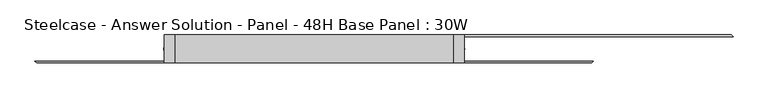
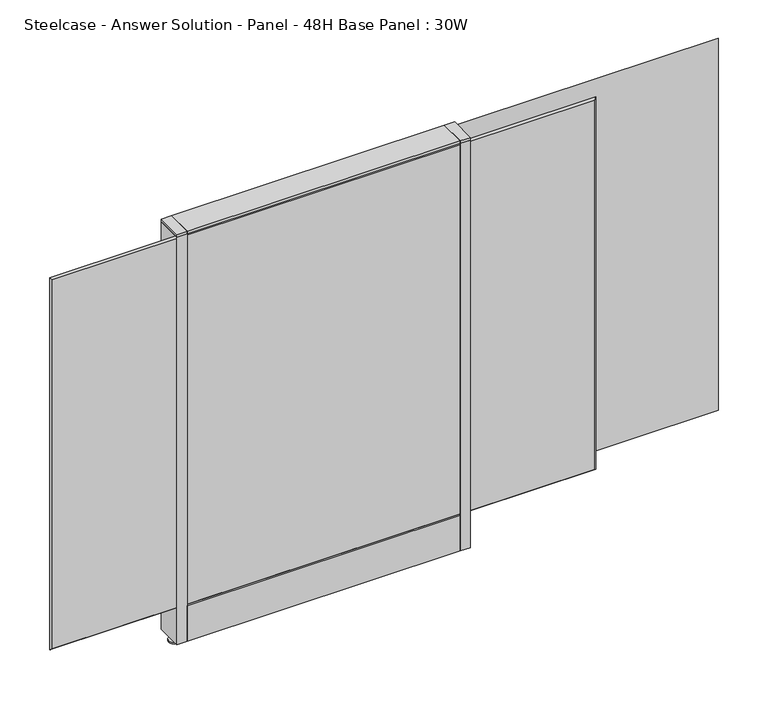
"""IFC4 building model written with IfcOpenShell, lengths in millimetres: furniture geometry, Steelcase - Answer Solution - Panel - 48H Base Panel : 30W."""

from ifc_helpers import new_model, si_unit, point, frame, frame_2d, origin, place, context, project, spatial, polyline, circle_curve, trimmed, segment, composite_curve, outline, extrude, faceted_brep, source, transform, mapped, element, save


def steelcase_answer_solution_panel_48h_base_panel_30w_b0dd2070(model_context):
    return source(origin(), model_context, "Body", "SolidModel", [
        extrude(outline(composite_curve([segment(trimmed(circle_curve(frame_2d((395.224, 0.0320214)), 5.08), [point((400.304, 0.0320214))], [point((390.144, 0.0320214))], False, "CARTESIAN"), True, "CONTINUOUS"), segment(trimmed(circle_curve(frame_2d((395.224, 0.0320214)), 5.08), [point((390.144, 0.0320214))], [point((400.304, 0.0320214))], False, "CARTESIAN"), True, "CONTINUOUS")], self_intersect=False)), frame((0.0, 0.0, 5.0799671), z_axis=(0.0, 0.0, 1.0), x_axis=(1.0, 0.0, 0.0)), (0.0, 0.0, 1.0), 10.414),
        extrude(outline(composite_curve([segment(trimmed(circle_curve(frame_2d((395.224, 0.0320214)), 15.24), [point((410.464, 0.0320214))], [point((379.984, 0.0320214))], False, "CARTESIAN"), True, "CONTINUOUS"), segment(trimmed(circle_curve(frame_2d((395.224, 0.0320214)), 15.24), [point((379.984, 0.0320214))], [point((410.464, 0.0320214))], False, "CARTESIAN"), True, "CONTINUOUS")], self_intersect=False)), frame((0.0, 0.0, -3.29e-05), z_axis=(0.0, 0.0, 1.0), x_axis=(1.0, 0.0, 0.0)), (0.0, 0.0, 1.0), 5.08),
        extrude(outline(polyline([(409.575, 38.1320408), (409.575, -38.0679592), (381.0, -38.0679592), (381.0, 38.1320408), (409.575, 38.1320408)])), frame((0.0, 0.0, 1218.2348), z_axis=(0.0, 0.0, 1.0), x_axis=(1.0, 0.0, 0.0)), (0.0, 0.0, 1.0), 7.3151671),
        extrude(outline(polyline([(409.575, 38.1320408), (409.575, -38.0679592), (381.0, -38.0679592), (381.0, 38.1320408), (409.575, 38.1320408)])), frame((0.0, 0.0, 15.4939671), z_axis=(0.0, 0.0, 1.0), x_axis=(1.0, 0.0, 0.0)), (0.0, 0.0, 1.0), 1202.7408329),
        extrude(outline(composite_curve([segment(trimmed(circle_curve(frame_2d((-395.224, 0.0320214)), 5.08), [point((-400.304, 0.0320214))], [point((-390.144, 0.0320214))], False, "CARTESIAN"), True, "CONTINUOUS"), segment(trimmed(circle_curve(frame_2d((-395.224, 0.0320214)), 5.08), [point((-390.144, 0.0320214))], [point((-400.304, 0.0320214))], False, "CARTESIAN"), True, "CONTINUOUS")], self_intersect=False)), frame((0.0, 0.0, 5.0799671), z_axis=(0.0, 0.0, 1.0), x_axis=(1.0, 0.0, 0.0)), (0.0, 0.0, 1.0), 10.414),
        extrude(outline(composite_curve([segment(trimmed(circle_curve(frame_2d((-395.224, 0.0320214)), 15.24), [point((-410.464, 0.0320214))], [point((-379.984, 0.0320214))], False, "CARTESIAN"), True, "CONTINUOUS"), segment(trimmed(circle_curve(frame_2d((-395.224, 0.0320214)), 15.24), [point((-379.984, 0.0320214))], [point((-410.464, 0.0320214))], False, "CARTESIAN"), True, "CONTINUOUS")], self_intersect=False)), frame((0.0, 0.0, -3.29e-05), z_axis=(0.0, 0.0, 1.0), x_axis=(1.0, 0.0, 0.0)), (0.0, 0.0, 1.0), 5.08),
        extrude(outline(polyline([(-409.575, 38.1320408), (-381.0, 38.1320408), (-381.0, -38.0679592), (-409.575, -38.0679592), (-409.575, 38.1320408)])), frame((0.0, 0.0, 1218.2348), z_axis=(0.0, 0.0, 1.0), x_axis=(1.0, 0.0, 0.0)), (0.0, 0.0, 1.0), 7.3151671),
        extrude(outline(polyline([(-409.575, 38.1320408), (-381.0, 38.1320408), (-381.0, -38.0679592), (-409.575, -38.0679592), (-409.575, 38.1320408)])), frame((0.0, 0.0, 15.4939671), z_axis=(0.0, 0.0, 1.0), x_axis=(1.0, 0.0, 0.0)), (0.0, 0.0, 1.0), 1202.7408329),
        faceted_brep([(-376.174, 38.1635011, 1214.374), (1138.174, 38.1635011, 1214.374), (1138.174, 38.1635011, 125.476), (-376.174, 38.1635011, 125.476), (-381.0, 33.3375011, 1219.2), (-381.0, 33.3375011, 120.65), (1143.0, 33.3375011, 120.65), (1143.0, 33.3375011, 1219.2)], [[[0, 1, 2, 3]], [[4, 5, 6, 7]], [[4, 7, 1, 0]], [[7, 6, 2, 1]], [[6, 5, 3, 2]], [[5, 4, 0, 3]]]),
        faceted_brep([(757.174, -38.1635011, 1214.374), (-757.174, -38.1635011, 1214.374), (-757.174, -38.1635011, 125.476), (757.174, -38.1635011, 125.476), (762.0, -33.3375011, 1219.2), (762.0, -33.3375011, 120.65), (-762.0, -33.3375011, 120.65), (-762.0, -33.3375011, 1219.2)], [[[0, 1, 2, 3]], [[4, 5, 6, 7]], [[4, 7, 1, 0]], [[7, 6, 2, 1]], [[6, 5, 3, 2]], [[5, 4, 0, 3]]]),
        extrude(outline(polyline([(381.0, 38.1000194), (381.0, -38.1000194), (-381.0, -38.1000194), (-381.0, 38.1000194), (381.0, 38.1000194)])), frame((0.0, 0.0, 1219.2), z_axis=(0.0, 0.0, 1.0), x_axis=(1.0, 0.0, 0.0)), (0.0, 0.0, 1.0), 6.35),
        extrude(outline(polyline([(25.4000011, 119.8575157), (25.4000011, 120.65), (38.1000194, 120.65), (38.1000194, 15.494), (37.3075215, 15.494), (37.3075215, 119.8575157), (25.4000011, 119.8575157)])), frame((-381.0, 0.0, 0.0), z_axis=(1.0, 0.0, 0.0), x_axis=(0.0, 1.0, 0.0)), (0.0, 0.0, 1.0), 762.0),
        extrude(outline(polyline([(-25.4000011, 119.8575157), (-37.3075215, 119.8575157), (-37.3075215, 15.494), (-38.1000194, 15.494), (-38.1000194, 120.65), (-25.4000011, 120.65), (-25.4000011, 119.8575157)])), frame((-381.0, 0.0, 0.0), z_axis=(1.0, 0.0, 0.0), x_axis=(0.0, 1.0, 0.0)), (0.0, 0.0, 1.0), 762.0),
    ])


if __name__ == "__main__":
    model = new_model("IFC4")
    model_context = context("Model", 3, world=origin())
    ifc_project = project(units=[si_unit("LENGTHUNIT", "METRE", prefix="MILLI")], contexts=[model_context])
    site = spatial("IfcSite", under=ifc_project)
    building = spatial("IfcBuilding", under=site)
    placement = place(None, origin())
    steelcase_answer_solution_panel_48h_base_panel_30w_shape = steelcase_answer_solution_panel_48h_base_panel_30w_b0dd2070(model_context)
    element("IfcFurniture", 1, ObjectType="Steelcase - Answer Solution - Panel - 48H Base Panel : 30W", at=placement, inside=building, context=model_context, shape_type="MappedRepresentation", body=[
        mapped(steelcase_answer_solution_panel_48h_base_panel_30w_shape, transform((0.0, 0.0, 0.0), x_axis=(1.0, 0.0, 0.0), y_axis=(0.0, 1.0, 0.0), z_axis=(0.0, 0.0, 1.0))),
    ])
    save(model, "model.ifc")
